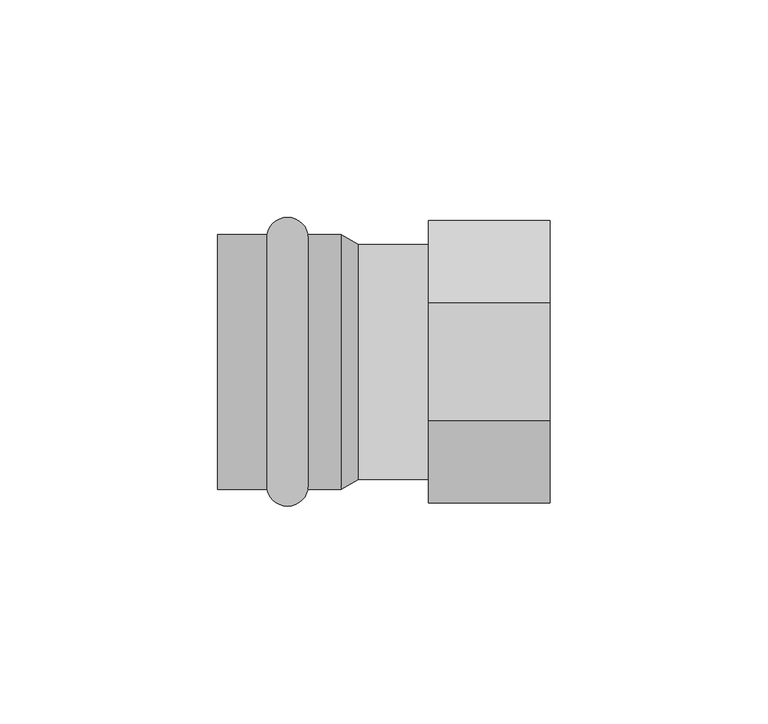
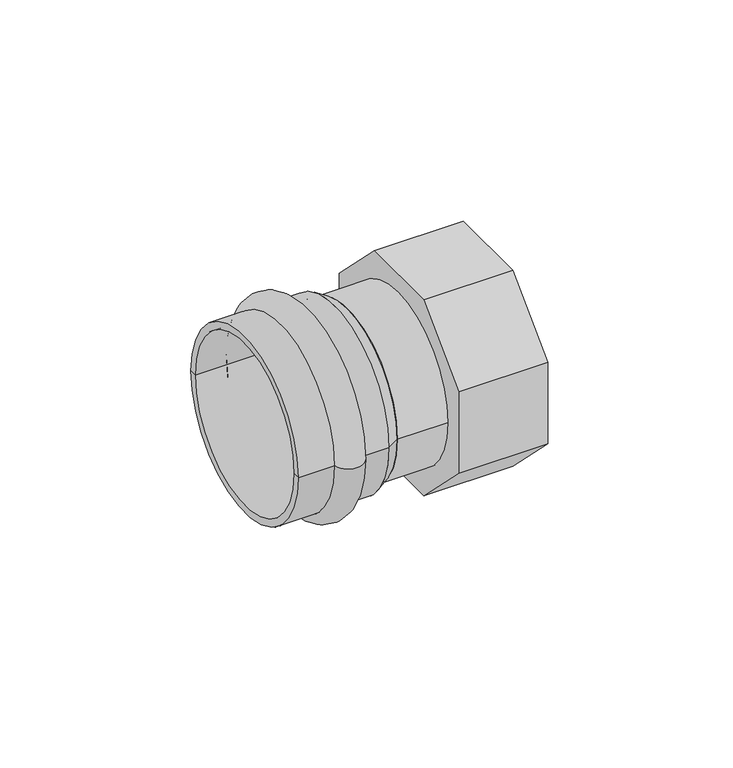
"""IFC4 building model written with IfcOpenShell, lengths in millimetres: pipe fitting geometry, VALTEC_VTi.908.I_Соединитель с накидной гайкой_Нержавеющая сталь : VTi.908.I."""

from ifc_helpers import new_model, si_unit, point, frame, origin, origin_2d, place, context, project, spatial, polyline, circle_curve, ellipse_curve, trimmed, segment, composite_curve, outline, extrude, source, transform, mapped, element, save
from ifc_brep_helpers import plane_surface, cylinder_surface, revolved_surface, advanced_brep


def pipe_fitting_ce931f2a(model_context):
    return source(origin(), model_context, "Body", "SolidModel", [
        advanced_brep(
        [(-51.1148701, -29.3, 0.0), (-51.1148701, 29.3, 0.0), (-41.6851299, 29.3, 0.0), (-41.6851299, -29.3, 0.0), (-62.5, -29.3, 0.0), (-62.5, 29.3, 0.0), (-62.5, -27.0, 0.0), (-62.5, 27.0, 0.0), (-34.1, -27.0, 0.0), (-34.1, 27.0, 0.0), (-34.1, -29.3, 0.0), (-34.1, 29.3, 0.0)],
        [
            (0, 1, circle_curve(frame((-51.1148701, 0.0, 0.0), z_axis=(1.0, 0.0, 0.0), x_axis=(0.0, 1.0, 0.0)), 29.3)),
            (1, 2, circle_curve(frame((-46.4, 28.4, 0.0), z_axis=(0.0, 0.0, -1.0), x_axis=(1.0, 0.0, 0.0)), 4.8)),
            (2, 3, circle_curve(frame((-41.6851299, 0.0, 0.0), z_axis=(-1.0, 0.0, 0.0), x_axis=(0.0, 1.0, 0.0)), 29.3)),
            (3, 0, circle_curve(frame((-46.4, -28.4, 0.0), z_axis=(0.0, 0.0, -1.0), x_axis=(1.0, 0.0, 0.0)), 4.8)),
            (1, 0, circle_curve(frame((-51.1148701, 0.0, 0.0), z_axis=(1.0, 0.0, 0.0), x_axis=(0.0, 1.0, 0.0)), 29.3)),
            (3, 2, circle_curve(frame((-41.6851299, 0.0, 0.0), z_axis=(-1.0, 0.0, 0.0), x_axis=(0.0, 1.0, 0.0)), 29.3)),
            (4, 5, circle_curve(frame((-62.5, 0.0, 0.0), z_axis=(1.0, 0.0, 0.0), x_axis=(0.0, 1.0, 0.0)), 29.3)),
            (5, 1),
            (0, 4),
            (5, 4, circle_curve(frame((-62.5, 0.0, 0.0), z_axis=(1.0, 0.0, 0.0), x_axis=(0.0, 1.0, 0.0)), 29.3)),
            (6, 7, circle_curve(frame((-62.5, 0.0, 0.0), z_axis=(1.0, 0.0, 0.0), x_axis=(0.0, 1.0, 0.0)), 27.0)),
            (7, 5),
            (4, 6),
            (7, 6, circle_curve(frame((-62.5, 0.0, 0.0), z_axis=(1.0, 0.0, 0.0), x_axis=(0.0, 1.0, 0.0)), 27.0)),
            (8, 9, circle_curve(frame((-34.1, 0.0, 0.0), z_axis=(1.0, 0.0, 0.0), x_axis=(0.0, 1.0, 0.0)), 27.0)),
            (9, 7),
            (6, 8),
            (9, 8, circle_curve(frame((-34.1, 0.0, 0.0), z_axis=(1.0, 0.0, 0.0), x_axis=(0.0, 1.0, 0.0)), 27.0)),
            (10, 11, circle_curve(frame((-34.1, 0.0, 0.0), z_axis=(1.0, 0.0, 0.0), x_axis=(0.0, 1.0, 0.0)), 29.3)),
            (11, 9),
            (8, 10),
            (11, 10, circle_curve(frame((-34.1, 0.0, 0.0), z_axis=(1.0, 0.0, 0.0), x_axis=(0.0, 1.0, 0.0)), 29.3)),
            (2, 11),
            (10, 3),
        ],
        [
            revolved_surface(trimmed(ellipse_curve(frame((-46.4, 28.4, 0.0), z_axis=(0.0, 0.0, 1.0), x_axis=(1.0, 0.0, 0.0)), 4.8, 4.8), [point((-41.6851299, 29.3, 0.0))], [point((-51.1148701, 29.3, 0.0))], True, "CARTESIAN"), (-66.0364426, 0.0, 0.0), (-1.0, 0.0, 0.0)),
            cylinder_surface(frame((-66.0364426, 0.0, 0.0), z_axis=(-1.0, 0.0, 0.0), x_axis=(0.0, 1.0, 0.0)), 29.3),
            plane_surface(frame((-62.5, 0.0, 0.0), z_axis=(-1.0, 0.0, 0.0), x_axis=(0.0, 1.0, 0.0))),
            revolved_surface(polyline([(-62.5, 27.0, 0.0), (-34.1, 27.0, 0.0)]), (-66.0364426, 0.0, 0.0), (-1.0, 0.0, 0.0)),
            plane_surface(frame((-34.1, 0.0, 0.0), z_axis=(1.0, 0.0, 0.0), x_axis=(0.0, 1.0, 0.0))),
        ],
        [
            (0, [[1, 2, 3, 4]]),
            (0, [[5, -4, 6, -2]]),
            (1, [[7, 8, -1, 9]]),
            (1, [[10, -9, -5, -8]]),
            (2, [[11, 12, -7, 13]]),
            (2, [[14, -13, -10, -12]]),
            (3, [[15, 16, -11, 17]]),
            (3, [[18, -17, -14, -16]]),
            (4, [[19, 20, -15, 21]]),
            (4, [[22, -21, -18, -20]]),
            (1, [[-3, 23, -19, 24]]),
            (1, [[-6, -24, -22, -23]]),
        ],
    ),
        extrude(outline(polyline([(13.4619408, 32.5), (32.5, 13.4619408), (32.5, -13.4619408), (13.4619408, -32.5), (-13.4619408, -32.5), (-32.5, -13.4619408), (-32.5, 13.4619408), (-13.4619408, 32.5), (13.4619408, 32.5)])), frame((-14.0, 0.0, 0.0), z_axis=(1.0, 0.0, 0.0), x_axis=(0.0, 1.0, 0.0)), (0.0, 0.0, 1.0), 28.0),
        extrude(outline(polyline([(13.4619408, 32.5), (32.5, 13.4619408), (32.5, -13.4619408), (13.4619408, -32.5), (-13.4619408, -32.5), (-32.5, -13.4619408), (-32.5, 13.4619408), (-13.4619408, 32.5), (13.4619408, 32.5)]), holes=[composite_curve([segment(trimmed(circle_curve(origin_2d(), 25.0), [point((-25.0, 0.0))], [point((25.0, 0.0))], True, "CARTESIAN"), True, "CONTINUOUS"), segment(trimmed(circle_curve(origin_2d(), 25.0), [point((25.0, 0.0))], [point((-25.0, 0.0))], True, "CARTESIAN"), True, "CONTINUOUS")], self_intersect=False)]), frame((-14.0, 0.0, 0.0), z_axis=(1.0, 0.0, 0.0), x_axis=(0.0, 1.0, 0.0)), (0.0, 0.0, 1.0), 28.0),
        extrude(outline(composite_curve([segment(trimmed(circle_curve(origin_2d(), 27.0), [point((-27.0, 0.0))], [point((27.0, 0.0))], False, "CARTESIAN"), True, "CONTINUOUS"), segment(trimmed(circle_curve(origin_2d(), 27.0), [point((27.0, 0.0))], [point((-27.0, 0.0))], False, "CARTESIAN"), True, "CONTINUOUS")], self_intersect=False)), frame((-30.1, 0.0, 0.0), z_axis=(1.0, 0.0, 0.0), x_axis=(0.0, 1.0, 0.0)), (0.0, 0.0, 1.0), 21.6),
        advanced_brep(
        [(-30.1, -27.0, 0.0), (-30.1, 27.0, 0.0), (-34.1, -29.3, 0.0), (-34.1, 29.3, 0.0)],
        [
            (0, 1, circle_curve(frame((-30.1, 0.0, 0.0), z_axis=(1.0, 0.0, 0.0), x_axis=(0.0, -1.0, 0.0)), 27.0)),
            (1, 0, circle_curve(frame((-30.1, 0.0, 0.0), z_axis=(1.0, 0.0, 0.0), x_axis=(0.0, 1.0, 0.0)), 27.0)),
            (2, 3, circle_curve(frame((-34.1, 0.0, 0.0), z_axis=(-1.0, 0.0, 0.0), x_axis=(0.0, 1.0, 0.0)), 29.3)),
            (3, 2, circle_curve(frame((-34.1, 0.0, 0.0), z_axis=(-1.0, 0.0, 0.0), x_axis=(0.0, -1.0, 0.0)), 29.3)),
            (3, 1),
            (0, 2),
        ],
        [
            plane_surface(frame((-30.1, 0.0, 0.0), z_axis=(1.0, 0.0, 0.0), x_axis=(0.0, 0.0, -1.0))),
            plane_surface(frame((-34.1, 0.0, 0.0), z_axis=(-1.0, 0.0, 0.0), x_axis=(0.0, 0.0, -1.0))),
            revolved_surface(polyline([(-30.099999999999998, -26.99999999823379, 0.0), (-34.099999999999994, -29.3, 0.0)]), (16.8565217, 0.0, 0.0), (-1.0, 0.0, 0.0)),
            revolved_surface(polyline([(-30.099999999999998, 26.99999999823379, 0.0), (-34.099999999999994, 29.3, 0.0)]), (16.8565217, 0.0, 0.0), (-1.0, 0.0, 0.0)),
        ],
        [
            (0, [[1, 2]]),
            (1, [[3, 4]]),
            (2, [[-4, 5, -1, 6]]),
            (3, [[-3, -6, -2, -5]]),
        ],
    ),
    ])


if __name__ == "__main__":
    model = new_model("IFC4")
    model_context = context("Model", 3, world=origin())
    ifc_project = project(units=[si_unit("LENGTHUNIT", "METRE", prefix="MILLI")], contexts=[model_context])
    site = spatial("IfcSite", under=ifc_project)
    building = spatial("IfcBuilding", under=site)
    placement = place(None, origin())
    pipe_fitting_shape = pipe_fitting_ce931f2a(model_context)
    element("IfcPipeFitting", 1, ObjectType="VALTEC_VTi.908.I_Соединитель с накидной гайкой_Нержавеющая сталь : VTi.908.I", at=placement, inside=building, context=model_context, shape_type="MappedRepresentation", body=[
        mapped(pipe_fitting_shape, transform((0.0, 0.0, 0.0), x_axis=(1.0, 0.0, 0.0), y_axis=(0.0, 1.0, 0.0), z_axis=(0.0, 0.0, 1.0))),
    ])
    save(model, "model.ifc")
